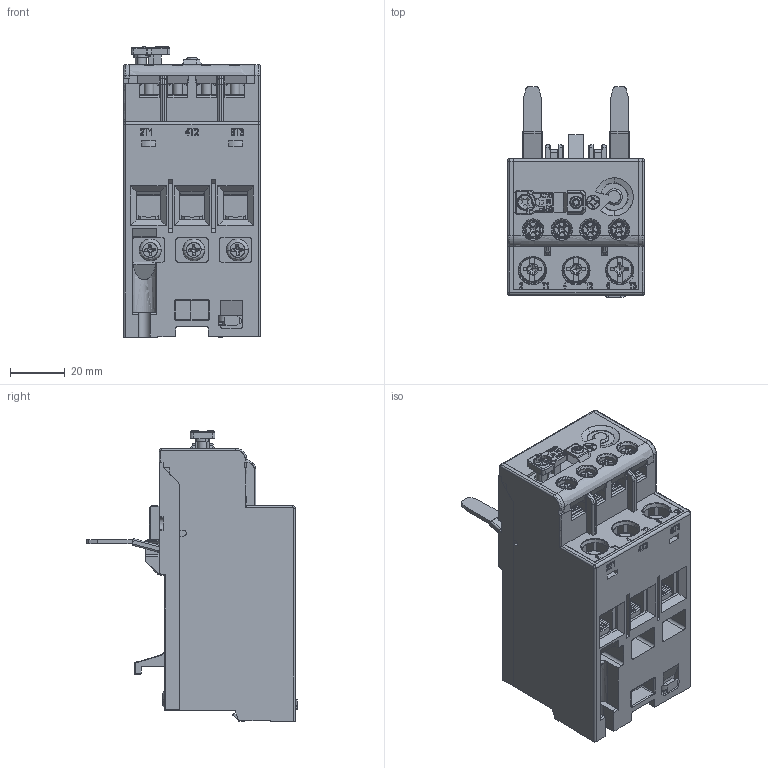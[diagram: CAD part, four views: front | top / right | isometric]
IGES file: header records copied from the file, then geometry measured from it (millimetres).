
Start section: SolidWorks IGES file using analytic representation for surfaces
Global section: file name: Q:\GROUPS\BR_SC_JGS_WA_TECNICO\ENG\Usuarios\Rodrigob\conversão\Reles de Sobrecarga\Produto\RW67-1D2\RW67-1D2.IGS; native system: SolidWorks 2014; preprocessor: SolidWorks 2014; author: rodrigob; date: 150410.073336; units: millimetre
Bounding box: 50 x 77.2 x 106.5 mm (x, y, z)
Surface area: 68953.2 mm2 (no closed solid volume)
Topology: 0 solids, 0 shells, 3405 faces, 29606 edges, 29572 vertices
Faces by surface type: bspline 2413, revolution 992
